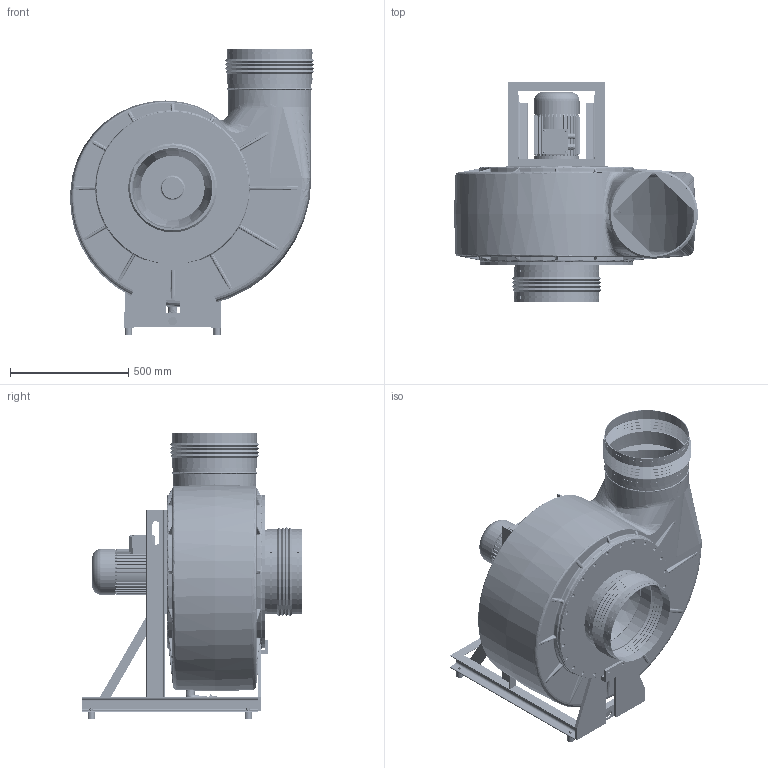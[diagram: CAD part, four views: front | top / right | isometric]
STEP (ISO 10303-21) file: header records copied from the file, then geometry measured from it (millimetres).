
FILE_DESCRIPTION( ( 'Unknown' ), '1' );
FILE_NAME( 'K:/HOME/HLT_CAD/Z/HF/3D/Zusammenstellung/HFR/HFR 15_17/HFR...-15D/DS_1/HFR_355-15D/GR360/HFR_355-15D_DS1_GR_360_100.stp', 'Unknown', ( 'Unknown' ), ( 'Unknown' ), 'PSStep 14.0', 'Unknown', ' ' );
FILE_SCHEMA( ( 'AUTOMOTIVE_DESIGN { 1 0 10303 214 1 1 1 1 }' ) );
Length unit declared in the file: millimetre
Products named in the file (43): 5331_Gestell_HFR_355_15_D_DS1; Angle 60x30x5-oa0; C-Channel 65x42-oa1; C-Channel 65x42-oa2; Angle 40x40x4-oa3; Angle 40x40x4-oa4; Angle 40x40x4-oa5; Angle 80x40x6-oa6; Angle 80x40x6-oa7; Angle 25x4-oa8; 5331_Gehäuseplatte; HFR 355_GR; Ensat-Buchse-M8; Gehäuse 355_GR-Abgeschn; 5157_GHD_355; GD_FL 355; 5157_Rohr_355; 355; 5157_Rohr_280; 5218_Abdeckkappe; 5218_Drehteil; 5218_Flachdichtung_Ø90; 5218_Flachdichtung_Ø32; 5218_Schraubkappe; 5003_Man 355; 5003_Manschettenband_Ø355; 5003_4_Schelle_Ø355; 5159_Kondensatablauf_355-500; 721100108-Winkel_90°-DN25_d=32; Stopfen_G1-oa9; Rohr_Ø32; Schlauch_Ø32; Verschlusskappe_Ø31,8; Schelle; Assem1; 5329_LR_355_GR; 5200_Befestigungsklammer_HFR355; 6611_Motorring_Bg100+112; Schwidä_30x30; 6kant_M8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
Assembly tree (110 placements, depth 3):
  Assem1
    5329_LR_355_GR
    5200_Befestigungsklammer_HFR355
    6611_Motorring_Bg100+112
    Schwidä_30x30  x4
    6kant_M8  x4
    5200_Stützplatte_HFR355_90°-180°-360°_DS1  x2
    5200_Stützplatte_HFR355_90°-180°-360°_DS1  x2
    B5_100a_2HIHI
    5331_Gestell_HFR_355_15_D_DS1
      Angle 60x30x5-oa0
      C-Channel 65x42-oa1
      C-Channel 65x42-oa2
      Angle 40x40x4-oa3
      Angle 40x40x4-oa4
      Angle 40x40x4-oa5
      Angle 80x40x6-oa6
      Angle 80x40x6-oa7
      Angle 25x4-oa8
      5331_Gehäuseplatte
    HFR 355_GR
      Ensat-Buchse-M8  x56
      Gehäuse 355_GR-Abgeschn
    5157_GHD_355
      GD_FL 355
      5157_Rohr_355
      355  x2
      5157_Rohr_280
    5159_Kondensatablauf_355-500
      721100108-Winkel_90°-DN25_d=32
      Stopfen_G1-oa9
      Rohr_Ø32  x2
      Schlauch_Ø32
      Verschlusskappe_Ø31,8
      Schelle  x2
    5003_Man 355  x2
      5003_Manschettenband_Ø355
      5003_4_Schelle_Ø355
    5218_Abdeckkappe
      5218_Drehteil
      5218_Flachdichtung_Ø90
      5218_Flachdichtung_Ø32
      5218_Schraubkappe
Bounding box: 1033.46 x 934 x 1215 mm (x, y, z)
Volume: 25559348.3 mm3; surface area: 10739629.8 mm2
Topology: 105 solids, 106 shells, 3410 faces, 7170 edges, 4486 vertices
Faces by surface type: plane 1482, cylinder 1148, bspline 336, torus 218, cone 150, sphere 48, offset 22, revolution 6
Full cylindrical faces by diameter (mm): 6.647 x64, 8 x8, 8.376 x1, 8.5 x4, 9 x2, 10 x4, 10.5 x4, 11 x4, 12 x224, 12.5 x1, 13 x230, 14 x18, 14.5 x4, 15 x24, 16 x6, 17 x48, 20 x1, 22 x1, 23 x1, 24 x4, 25 x1, 25.6 x2, 28 x1, 28.4 x2, 30 x4, 30.291 x1, 31 x1, 31.8 x1, 32 x6, 33.6 x1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
Entity records: 147351 total; most frequent: CARTESIAN_POINT 68375, DIRECTION 11910, ORIENTED_EDGE 10456, EDGE_CURVE 5228, AXIS2_PLACEMENT_3D 5021, EDGE_LOOP 3899, VERTEX_POINT 3564, FACE_OUTER_BOUND 3309
